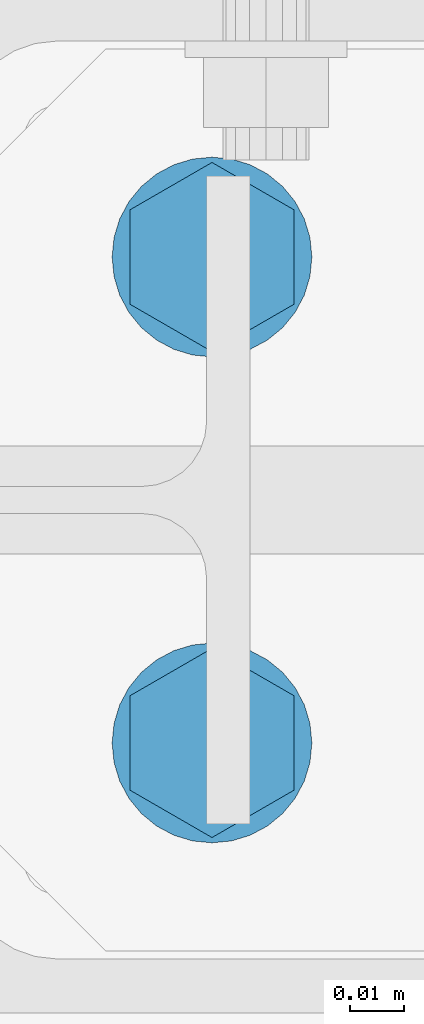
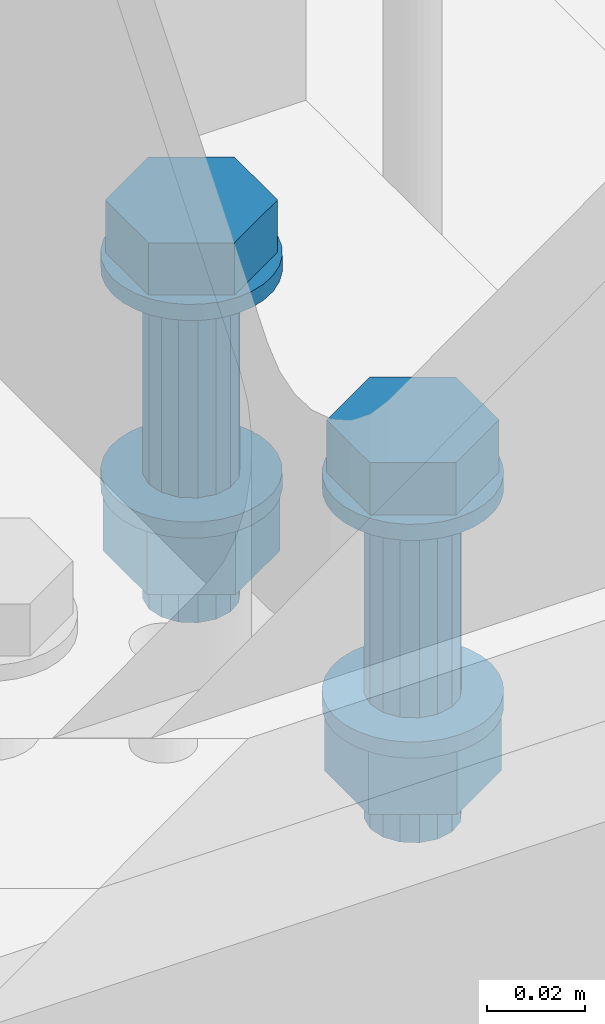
# One storey, part 269 of 825: 1 mechanical fastener.
"""IFC2X3 building model written with IfcOpenShell, lengths in millimetres."""

from ifc_helpers import new_model, entity, si_unit, converted_unit, origin_with_axes, place, context, project, spatial, faceted_brep, element, save


model = new_model("IFC2X3")

# Units and contexts
model_context = context("Model", 3, precision=1e-09, world=origin_with_axes())
ifc_project = project(units=[si_unit("LENGTHUNIT", "METRE", prefix="MILLI"), si_unit("AREAUNIT", "SQUARE_METRE"), si_unit("VOLUMEUNIT", "CUBIC_METRE"), converted_unit("PLANEANGLEUNIT", "DEGREE", entity("IfcPlaneAngleMeasure", 0.01745329), si_unit("PLANEANGLEUNIT", "RADIAN"), dimensions=[0, 0, 0, 0, 0, 0, 0])], contexts=[model_context])

# Site, building, storey
site_placement = place(None, origin_with_axes())
site = spatial("IfcSite", under=ifc_project, at=site_placement, Name="Cnopf'sche Kinderklinik", CompositionType="ELEMENT")
building_placement = place(site_placement, origin_with_axes())
building = spatial("IfcBuilding", under=site, at=building_placement, Name="Struktur 1", CompositionType="ELEMENT")
storey_placement = place(building_placement, origin_with_axes())
storey = spatial("IfcBuildingStorey", under=building, at=storey_placement, Name="Default Storey", CompositionType="ELEMENT", Elevation=0.0)

# Mechanical fastener
mechanical_fastener_placement = place(None, origin_with_axes())
element("IfcMechanicalFastener", 1, at=mechanical_fastener_placement, inside=storey, ObjectType="Bolt#2", NominalDiameter=20.0, NominalLength=85.0, context=model_context, shape_type="Brep", body=[
    faceted_brep([(4925.213402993, 4411.736971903, 12925.0), (4925.213402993, 4411.736971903, 12929.0), (4924.857930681, 4408.127800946, 12929.0), (4924.857930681, 4408.127800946, 12925.0), (4923.805174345, 4404.657328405, 12929.0), (4923.805174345, 4404.657328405, 12925.0), (4922.095590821, 4401.458922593, 12929.0), (4922.095590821, 4401.458922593, 12925.0), (4919.794878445, 4398.655496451, 12929.0), (4919.794878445, 4398.655496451, 12925.0), (4916.991452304, 4396.354784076, 12929.0), (4916.991452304, 4396.354784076, 12925.0), (4913.793046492, 4394.645200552, 12929.0), (4913.793046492, 4394.645200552, 12925.0), (4910.32257395, 4393.592444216, 12929.0), (4910.32257395, 4393.592444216, 12925.0), (4906.713402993, 4393.236971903, 12929.0), (4906.713402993, 4393.236971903, 12925.0), (4903.104232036, 4393.592444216, 12929.0), (4903.104232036, 4393.592444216, 12925.0), (4899.633759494, 4394.645200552, 12929.0), (4899.633759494, 4394.645200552, 12925.0), (4896.435353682, 4396.354784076, 12929.0), (4896.435353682, 4396.354784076, 12925.0), (4893.631927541, 4398.655496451, 12929.0), (4893.631927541, 4398.655496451, 12925.0), (4891.331215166, 4401.458922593, 12929.0), (4891.331215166, 4401.458922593, 12925.0), (4889.621631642, 4404.657328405, 12929.0), (4889.621631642, 4404.657328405, 12925.0), (4888.568875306, 4408.127800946, 12929.0), (4888.568875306, 4408.127800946, 12925.0), (4888.213402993, 4411.736971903, 12929.0), (4888.213402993, 4411.736971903, 12925.0), (4888.568875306, 4415.346142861, 12929.0), (4888.568875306, 4415.346142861, 12925.0), (4889.621631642, 4418.816615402, 12929.0), (4889.621631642, 4418.816615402, 12925.0), (4891.331215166, 4422.015021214, 12929.0), (4891.331215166, 4422.015021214, 12925.0), (4893.631927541, 4424.818447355, 12929.0), (4893.631927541, 4424.818447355, 12925.0), (4896.435353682, 4427.119159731, 12929.0), (4896.435353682, 4427.119159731, 12925.0), (4899.633759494, 4428.828743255, 12929.0), (4899.633759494, 4428.828743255, 12925.0), (4903.104232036, 4429.881499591, 12929.0), (4903.104232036, 4429.881499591, 12925.0), (4906.713402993, 4430.236971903, 12929.0), (4906.713402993, 4430.236971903, 12925.0), (4910.32257395, 4429.881499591, 12929.0), (4910.32257395, 4429.881499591, 12925.0), (4913.793046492, 4428.828743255, 12929.0), (4913.793046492, 4428.828743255, 12925.0), (4916.991452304, 4427.119159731, 12929.0), (4916.991452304, 4427.119159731, 12925.0), (4919.794878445, 4424.818447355, 12929.0), (4919.794878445, 4424.818447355, 12925.0), (4922.095590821, 4422.015021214, 12929.0), (4922.095590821, 4422.015021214, 12925.0), (4923.805174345, 4418.816615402, 12929.0), (4923.805174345, 4418.816615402, 12925.0), (4924.857930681, 4415.346142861, 12929.0), (4924.857930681, 4415.346142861, 12925.0)], [[[0, 1, 2, 3]], [[3, 2, 4, 5]], [[5, 4, 6, 7]], [[7, 6, 8, 9]], [[9, 8, 10, 11]], [[11, 10, 12, 13]], [[13, 12, 14, 15]], [[15, 14, 16, 17]], [[17, 16, 18, 19]], [[19, 18, 20, 21]], [[21, 20, 22, 23]], [[23, 22, 24, 25]], [[25, 24, 26, 27]], [[27, 26, 28, 29]], [[29, 28, 30, 31]], [[31, 30, 32, 33]], [[33, 32, 34, 35]], [[35, 34, 36, 37]], [[37, 36, 38, 39]], [[39, 38, 40, 41]], [[41, 40, 42, 43]], [[43, 42, 44, 45]], [[45, 44, 46, 47]], [[47, 46, 48, 49]], [[49, 48, 50, 51]], [[51, 50, 52, 53]], [[53, 52, 54, 55]], [[55, 54, 56, 57]], [[57, 56, 58, 59]], [[59, 58, 60, 61]], [[61, 60, 62, 63]], [[63, 62, 1, 0]], [[2, 1, 62, 60, 58, 56, 54, 52, 50, 48, 46, 44, 42, 40, 38, 36, 34, 32, 30, 28, 26, 24, 22, 20, 18, 16, 14, 12, 10, 8, 6, 4]], [[63, 0, 3, 5, 7, 9, 11, 13, 15, 17, 19, 21, 23, 25, 27, 29, 31, 33, 35, 37, 39, 41, 43, 45, 47, 49, 51, 53, 55, 57, 59, 61]]]),
    faceted_brep([(4925.213402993, 4321.736971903, 12925.0), (4925.213402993, 4321.736971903, 12929.0), (4924.857930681, 4318.127800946, 12929.0), (4924.857930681, 4318.127800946, 12925.0), (4923.805174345, 4314.657328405, 12929.0), (4923.805174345, 4314.657328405, 12925.0), (4922.095590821, 4311.458922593, 12929.0), (4922.095590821, 4311.458922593, 12925.0), (4919.794878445, 4308.655496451, 12929.0), (4919.794878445, 4308.655496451, 12925.0), (4916.991452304, 4306.354784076, 12929.0), (4916.991452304, 4306.354784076, 12925.0), (4913.793046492, 4304.645200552, 12929.0), (4913.793046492, 4304.645200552, 12925.0), (4910.32257395, 4303.592444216, 12929.0), (4910.32257395, 4303.592444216, 12925.0), (4906.713402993, 4303.236971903, 12929.0), (4906.713402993, 4303.236971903, 12925.0), (4903.104232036, 4303.592444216, 12929.0), (4903.104232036, 4303.592444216, 12925.0), (4899.633759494, 4304.645200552, 12929.0), (4899.633759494, 4304.645200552, 12925.0), (4896.435353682, 4306.354784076, 12929.0), (4896.435353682, 4306.354784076, 12925.0), (4893.631927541, 4308.655496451, 12929.0), (4893.631927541, 4308.655496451, 12925.0), (4891.331215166, 4311.458922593, 12929.0), (4891.331215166, 4311.458922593, 12925.0), (4889.621631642, 4314.657328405, 12929.0), (4889.621631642, 4314.657328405, 12925.0), (4888.568875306, 4318.127800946, 12929.0), (4888.568875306, 4318.127800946, 12925.0), (4888.213402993, 4321.736971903, 12929.0), (4888.213402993, 4321.736971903, 12925.0), (4888.568875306, 4325.346142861, 12929.0), (4888.568875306, 4325.346142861, 12925.0), (4889.621631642, 4328.816615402, 12929.0), (4889.621631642, 4328.816615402, 12925.0), (4891.331215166, 4332.015021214, 12929.0), (4891.331215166, 4332.015021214, 12925.0), (4893.631927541, 4334.818447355, 12929.0), (4893.631927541, 4334.818447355, 12925.0), (4896.435353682, 4337.119159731, 12929.0), (4896.435353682, 4337.119159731, 12925.0), (4899.633759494, 4338.828743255, 12929.0), (4899.633759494, 4338.828743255, 12925.0), (4903.104232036, 4339.881499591, 12929.0), (4903.104232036, 4339.881499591, 12925.0), (4906.713402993, 4340.236971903, 12929.0), (4906.713402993, 4340.236971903, 12925.0), (4910.32257395, 4339.881499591, 12929.0), (4910.32257395, 4339.881499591, 12925.0), (4913.793046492, 4338.828743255, 12929.0), (4913.793046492, 4338.828743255, 12925.0), (4916.991452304, 4337.119159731, 12929.0), (4916.991452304, 4337.119159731, 12925.0), (4919.794878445, 4334.818447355, 12929.0), (4919.794878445, 4334.818447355, 12925.0), (4922.095590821, 4332.015021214, 12929.0), (4922.095590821, 4332.015021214, 12925.0), (4923.805174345, 4328.816615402, 12929.0), (4923.805174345, 4328.816615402, 12925.0), (4924.857930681, 4325.346142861, 12929.0), (4924.857930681, 4325.346142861, 12925.0)], [[[0, 1, 2, 3]], [[3, 2, 4, 5]], [[5, 4, 6, 7]], [[7, 6, 8, 9]], [[9, 8, 10, 11]], [[11, 10, 12, 13]], [[13, 12, 14, 15]], [[15, 14, 16, 17]], [[17, 16, 18, 19]], [[19, 18, 20, 21]], [[21, 20, 22, 23]], [[23, 22, 24, 25]], [[25, 24, 26, 27]], [[27, 26, 28, 29]], [[29, 28, 30, 31]], [[31, 30, 32, 33]], [[33, 32, 34, 35]], [[35, 34, 36, 37]], [[37, 36, 38, 39]], [[39, 38, 40, 41]], [[41, 40, 42, 43]], [[43, 42, 44, 45]], [[45, 44, 46, 47]], [[47, 46, 48, 49]], [[49, 48, 50, 51]], [[51, 50, 52, 53]], [[53, 52, 54, 55]], [[55, 54, 56, 57]], [[57, 56, 58, 59]], [[59, 58, 60, 61]], [[61, 60, 62, 63]], [[63, 62, 1, 0]], [[2, 1, 62, 60, 58, 56, 54, 52, 50, 48, 46, 44, 42, 40, 38, 36, 34, 32, 30, 28, 26, 24, 22, 20, 18, 16, 14, 12, 10, 8, 6, 4]], [[63, 0, 3, 5, 7, 9, 11, 13, 15, 17, 19, 21, 23, 25, 27, 29, 31, 33, 35, 37, 39, 41, 43, 45, 47, 49, 51, 53, 55, 57, 59, 61]]]),
    faceted_brep([(4891.544968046, 4402.979471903, 12942.0), (4891.544968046, 4402.979471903, 12929.0), (4906.713402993, 4394.221971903, 12929.0), (4906.713402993, 4394.221971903, 12942.0), (4921.88183794, 4402.979471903, 12929.0), (4921.88183794, 4402.979471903, 12942.0), (4921.88183794, 4420.494471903, 12929.0), (4921.88183794, 4420.494471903, 12942.0), (4906.713402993, 4429.251971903, 12929.0), (4906.713402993, 4429.251971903, 12942.0), (4891.544968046, 4420.494471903, 12929.0), (4891.544968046, 4420.494471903, 12942.0)], [[[0, 1, 2, 3]], [[3, 2, 4, 5]], [[5, 4, 6, 7]], [[7, 6, 8, 9]], [[9, 8, 10, 11]], [[11, 10, 1, 0]], [[3, 5, 7, 9, 11, 0]], [[2, 1, 10, 8, 6, 4]]]),
    faceted_brep([(4891.544968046, 4312.979471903, 12942.0), (4891.544968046, 4312.979471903, 12929.0), (4906.713402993, 4304.221971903, 12929.0), (4906.713402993, 4304.221971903, 12942.0), (4921.88183794, 4312.979471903, 12929.0), (4921.88183794, 4312.979471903, 12942.0), (4921.88183794, 4330.494471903, 12929.0), (4921.88183794, 4330.494471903, 12942.0), (4906.713402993, 4339.251971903, 12929.0), (4906.713402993, 4339.251971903, 12942.0), (4891.544968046, 4330.494471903, 12929.0), (4891.544968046, 4330.494471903, 12942.0)], [[[0, 1, 2, 3]], [[3, 2, 4, 5]], [[5, 4, 6, 7]], [[7, 6, 8, 9]], [[9, 8, 10, 11]], [[11, 10, 1, 0]], [[3, 5, 7, 9, 11, 0]], [[2, 1, 10, 8, 6, 4]]]),
    faceted_brep([(4916.713402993, 4411.736971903, 12875.0), (4916.713402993, 4411.736971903, 12925.0), (4915.952198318, 4407.91013758, 12925.0), (4915.952198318, 4407.91013758, 12875.0), (4913.784470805, 4404.665904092, 12925.0), (4913.784470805, 4404.665904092, 12875.0), (4910.540237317, 4402.498176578, 12925.0), (4910.540237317, 4402.498176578, 12875.0), (4906.713402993, 4401.736971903, 12925.0), (4906.713402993, 4401.736971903, 12875.0), (4902.88656867, 4402.498176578, 12925.0), (4902.88656867, 4402.498176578, 12875.0), (4899.642335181, 4404.665904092, 12925.0), (4899.642335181, 4404.665904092, 12875.0), (4897.474607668, 4407.91013758, 12925.0), (4897.474607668, 4407.91013758, 12875.0), (4896.713402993, 4411.736971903, 12925.0), (4896.713402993, 4411.736971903, 12875.0), (4897.474607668, 4415.563806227, 12925.0), (4897.474607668, 4415.563806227, 12875.0), (4899.642335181, 4418.808039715, 12925.0), (4899.642335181, 4418.808039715, 12875.0), (4902.88656867, 4420.975767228, 12925.0), (4902.88656867, 4420.975767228, 12875.0), (4906.713402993, 4421.736971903, 12925.0), (4906.713402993, 4421.736971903, 12875.0), (4910.540237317, 4420.975767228, 12925.0), (4910.540237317, 4420.975767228, 12875.0), (4913.784470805, 4418.808039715, 12925.0), (4913.784470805, 4418.808039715, 12875.0), (4915.952198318, 4415.563806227, 12925.0), (4915.952198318, 4415.563806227, 12875.0)], [[[0, 1, 2, 3]], [[3, 2, 4, 5]], [[5, 4, 6, 7]], [[7, 6, 8, 9]], [[9, 8, 10, 11]], [[11, 10, 12, 13]], [[13, 12, 14, 15]], [[15, 14, 16, 17]], [[17, 16, 18, 19]], [[19, 18, 20, 21]], [[21, 20, 22, 23]], [[23, 22, 24, 25]], [[25, 24, 26, 27]], [[27, 26, 28, 29]], [[29, 28, 30, 31]], [[31, 30, 1, 0]], [[2, 1, 30, 28, 26, 24, 22, 20, 18, 16, 14, 12, 10, 8, 6, 4]], [[31, 0, 3, 5, 7, 9, 11, 13, 15, 17, 19, 21, 23, 25, 27, 29]]]),
    faceted_brep([(4916.713402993, 4321.736971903, 12875.0), (4916.713402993, 4321.736971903, 12925.0), (4915.952198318, 4317.91013758, 12925.0), (4915.952198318, 4317.91013758, 12875.0), (4913.784470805, 4314.665904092, 12925.0), (4913.784470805, 4314.665904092, 12875.0), (4910.540237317, 4312.498176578, 12925.0), (4910.540237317, 4312.498176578, 12875.0), (4906.713402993, 4311.736971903, 12925.0), (4906.713402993, 4311.736971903, 12875.0), (4902.88656867, 4312.498176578, 12925.0), (4902.88656867, 4312.498176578, 12875.0), (4899.642335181, 4314.665904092, 12925.0), (4899.642335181, 4314.665904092, 12875.0), (4897.474607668, 4317.91013758, 12925.0), (4897.474607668, 4317.91013758, 12875.0), (4896.713402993, 4321.736971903, 12925.0), (4896.713402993, 4321.736971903, 12875.0), (4897.474607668, 4325.563806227, 12925.0), (4897.474607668, 4325.563806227, 12875.0), (4899.642335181, 4328.808039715, 12925.0), (4899.642335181, 4328.808039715, 12875.0), (4902.88656867, 4330.975767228, 12925.0), (4902.88656867, 4330.975767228, 12875.0), (4906.713402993, 4331.736971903, 12925.0), (4906.713402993, 4331.736971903, 12875.0), (4910.540237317, 4330.975767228, 12925.0), (4910.540237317, 4330.975767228, 12875.0), (4913.784470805, 4328.808039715, 12925.0), (4913.784470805, 4328.808039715, 12875.0), (4915.952198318, 4325.563806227, 12925.0), (4915.952198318, 4325.563806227, 12875.0)], [[[0, 1, 2, 3]], [[3, 2, 4, 5]], [[5, 4, 6, 7]], [[7, 6, 8, 9]], [[9, 8, 10, 11]], [[11, 10, 12, 13]], [[13, 12, 14, 15]], [[15, 14, 16, 17]], [[17, 16, 18, 19]], [[19, 18, 20, 21]], [[21, 20, 22, 23]], [[23, 22, 24, 25]], [[25, 24, 26, 27]], [[27, 26, 28, 29]], [[29, 28, 30, 31]], [[31, 30, 1, 0]], [[2, 1, 30, 28, 26, 24, 22, 20, 18, 16, 14, 12, 10, 8, 6, 4]], [[31, 0, 3, 5, 7, 9, 11, 13, 15, 17, 19, 21, 23, 25, 27, 29]]]),
    faceted_brep([(4925.213402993, 4411.736971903, 12871.0), (4925.213402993, 4411.736971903, 12875.0), (4924.857930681, 4408.127800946, 12875.0), (4924.857930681, 4408.127800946, 12871.0), (4923.805174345, 4404.657328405, 12875.0), (4923.805174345, 4404.657328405, 12871.0), (4922.095590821, 4401.458922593, 12875.0), (4922.095590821, 4401.458922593, 12871.0), (4919.794878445, 4398.655496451, 12875.0), (4919.794878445, 4398.655496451, 12871.0), (4916.991452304, 4396.354784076, 12875.0), (4916.991452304, 4396.354784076, 12871.0), (4913.793046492, 4394.645200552, 12875.0), (4913.793046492, 4394.645200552, 12871.0), (4910.32257395, 4393.592444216, 12875.0), (4910.32257395, 4393.592444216, 12871.0), (4906.713402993, 4393.236971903, 12875.0), (4906.713402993, 4393.236971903, 12871.0), (4903.104232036, 4393.592444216, 12875.0), (4903.104232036, 4393.592444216, 12871.0), (4899.633759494, 4394.645200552, 12875.0), (4899.633759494, 4394.645200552, 12871.0), (4896.435353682, 4396.354784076, 12875.0), (4896.435353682, 4396.354784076, 12871.0), (4893.631927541, 4398.655496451, 12875.0), (4893.631927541, 4398.655496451, 12871.0), (4891.331215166, 4401.458922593, 12875.0), (4891.331215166, 4401.458922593, 12871.0), (4889.621631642, 4404.657328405, 12875.0), (4889.621631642, 4404.657328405, 12871.0), (4888.568875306, 4408.127800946, 12875.0), (4888.568875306, 4408.127800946, 12871.0), (4888.213402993, 4411.736971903, 12875.0), (4888.213402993, 4411.736971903, 12871.0), (4888.568875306, 4415.346142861, 12875.0), (4888.568875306, 4415.346142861, 12871.0), (4889.621631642, 4418.816615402, 12875.0), (4889.621631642, 4418.816615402, 12871.0), (4891.331215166, 4422.015021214, 12875.0), (4891.331215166, 4422.015021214, 12871.0), (4893.631927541, 4424.818447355, 12875.0), (4893.631927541, 4424.818447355, 12871.0), (4896.435353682, 4427.119159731, 12875.0), (4896.435353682, 4427.119159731, 12871.0), (4899.633759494, 4428.828743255, 12875.0), (4899.633759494, 4428.828743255, 12871.0), (4903.104232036, 4429.881499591, 12875.0), (4903.104232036, 4429.881499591, 12871.0), (4906.713402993, 4430.236971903, 12875.0), (4906.713402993, 4430.236971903, 12871.0), (4910.32257395, 4429.881499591, 12875.0), (4910.32257395, 4429.881499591, 12871.0), (4913.793046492, 4428.828743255, 12875.0), (4913.793046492, 4428.828743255, 12871.0), (4916.991452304, 4427.119159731, 12875.0), (4916.991452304, 4427.119159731, 12871.0), (4919.794878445, 4424.818447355, 12875.0), (4919.794878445, 4424.818447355, 12871.0), (4922.095590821, 4422.015021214, 12875.0), (4922.095590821, 4422.015021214, 12871.0), (4923.805174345, 4418.816615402, 12875.0), (4923.805174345, 4418.816615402, 12871.0), (4924.857930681, 4415.346142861, 12875.0), (4924.857930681, 4415.346142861, 12871.0)], [[[0, 1, 2, 3]], [[3, 2, 4, 5]], [[5, 4, 6, 7]], [[7, 6, 8, 9]], [[9, 8, 10, 11]], [[11, 10, 12, 13]], [[13, 12, 14, 15]], [[15, 14, 16, 17]], [[17, 16, 18, 19]], [[19, 18, 20, 21]], [[21, 20, 22, 23]], [[23, 22, 24, 25]], [[25, 24, 26, 27]], [[27, 26, 28, 29]], [[29, 28, 30, 31]], [[31, 30, 32, 33]], [[33, 32, 34, 35]], [[35, 34, 36, 37]], [[37, 36, 38, 39]], [[39, 38, 40, 41]], [[41, 40, 42, 43]], [[43, 42, 44, 45]], [[45, 44, 46, 47]], [[47, 46, 48, 49]], [[49, 48, 50, 51]], [[51, 50, 52, 53]], [[53, 52, 54, 55]], [[55, 54, 56, 57]], [[57, 56, 58, 59]], [[59, 58, 60, 61]], [[61, 60, 62, 63]], [[63, 62, 1, 0]], [[2, 1, 62, 60, 58, 56, 54, 52, 50, 48, 46, 44, 42, 40, 38, 36, 34, 32, 30, 28, 26, 24, 22, 20, 18, 16, 14, 12, 10, 8, 6, 4]], [[63, 0, 3, 5, 7, 9, 11, 13, 15, 17, 19, 21, 23, 25, 27, 29, 31, 33, 35, 37, 39, 41, 43, 45, 47, 49, 51, 53, 55, 57, 59, 61]]]),
    faceted_brep([(4925.213402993, 4321.736971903, 12871.0), (4925.213402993, 4321.736971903, 12875.0), (4924.857930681, 4318.127800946, 12875.0), (4924.857930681, 4318.127800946, 12871.0), (4923.805174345, 4314.657328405, 12875.0), (4923.805174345, 4314.657328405, 12871.0), (4922.095590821, 4311.458922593, 12875.0), (4922.095590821, 4311.458922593, 12871.0), (4919.794878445, 4308.655496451, 12875.0), (4919.794878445, 4308.655496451, 12871.0), (4916.991452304, 4306.354784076, 12875.0), (4916.991452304, 4306.354784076, 12871.0), (4913.793046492, 4304.645200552, 12875.0), (4913.793046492, 4304.645200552, 12871.0), (4910.32257395, 4303.592444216, 12875.0), (4910.32257395, 4303.592444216, 12871.0), (4906.713402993, 4303.236971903, 12875.0), (4906.713402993, 4303.236971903, 12871.0), (4903.104232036, 4303.592444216, 12875.0), (4903.104232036, 4303.592444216, 12871.0), (4899.633759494, 4304.645200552, 12875.0), (4899.633759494, 4304.645200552, 12871.0), (4896.435353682, 4306.354784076, 12875.0), (4896.435353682, 4306.354784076, 12871.0), (4893.631927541, 4308.655496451, 12875.0), (4893.631927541, 4308.655496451, 12871.0), (4891.331215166, 4311.458922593, 12875.0), (4891.331215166, 4311.458922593, 12871.0), (4889.621631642, 4314.657328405, 12875.0), (4889.621631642, 4314.657328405, 12871.0), (4888.568875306, 4318.127800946, 12875.0), (4888.568875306, 4318.127800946, 12871.0), (4888.213402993, 4321.736971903, 12875.0), (4888.213402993, 4321.736971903, 12871.0), (4888.568875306, 4325.346142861, 12875.0), (4888.568875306, 4325.346142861, 12871.0), (4889.621631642, 4328.816615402, 12875.0), (4889.621631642, 4328.816615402, 12871.0), (4891.331215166, 4332.015021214, 12875.0), (4891.331215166, 4332.015021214, 12871.0), (4893.631927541, 4334.818447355, 12875.0), (4893.631927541, 4334.818447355, 12871.0), (4896.435353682, 4337.119159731, 12875.0), (4896.435353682, 4337.119159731, 12871.0), (4899.633759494, 4338.828743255, 12875.0), (4899.633759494, 4338.828743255, 12871.0), (4903.104232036, 4339.881499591, 12875.0), (4903.104232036, 4339.881499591, 12871.0), (4906.713402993, 4340.236971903, 12875.0), (4906.713402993, 4340.236971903, 12871.0), (4910.32257395, 4339.881499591, 12875.0), (4910.32257395, 4339.881499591, 12871.0), (4913.793046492, 4338.828743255, 12875.0), (4913.793046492, 4338.828743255, 12871.0), (4916.991452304, 4337.119159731, 12875.0), (4916.991452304, 4337.119159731, 12871.0), (4919.794878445, 4334.818447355, 12875.0), (4919.794878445, 4334.818447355, 12871.0), (4922.095590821, 4332.015021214, 12875.0), (4922.095590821, 4332.015021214, 12871.0), (4923.805174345, 4328.816615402, 12875.0), (4923.805174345, 4328.816615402, 12871.0), (4924.857930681, 4325.346142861, 12875.0), (4924.857930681, 4325.346142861, 12871.0)], [[[0, 1, 2, 3]], [[3, 2, 4, 5]], [[5, 4, 6, 7]], [[7, 6, 8, 9]], [[9, 8, 10, 11]], [[11, 10, 12, 13]], [[13, 12, 14, 15]], [[15, 14, 16, 17]], [[17, 16, 18, 19]], [[19, 18, 20, 21]], [[21, 20, 22, 23]], [[23, 22, 24, 25]], [[25, 24, 26, 27]], [[27, 26, 28, 29]], [[29, 28, 30, 31]], [[31, 30, 32, 33]], [[33, 32, 34, 35]], [[35, 34, 36, 37]], [[37, 36, 38, 39]], [[39, 38, 40, 41]], [[41, 40, 42, 43]], [[43, 42, 44, 45]], [[45, 44, 46, 47]], [[47, 46, 48, 49]], [[49, 48, 50, 51]], [[51, 50, 52, 53]], [[53, 52, 54, 55]], [[55, 54, 56, 57]], [[57, 56, 58, 59]], [[59, 58, 60, 61]], [[61, 60, 62, 63]], [[63, 62, 1, 0]], [[2, 1, 62, 60, 58, 56, 54, 52, 50, 48, 46, 44, 42, 40, 38, 36, 34, 32, 30, 28, 26, 24, 22, 20, 18, 16, 14, 12, 10, 8, 6, 4]], [[63, 0, 3, 5, 7, 9, 11, 13, 15, 17, 19, 21, 23, 25, 27, 29, 31, 33, 35, 37, 39, 41, 43, 45, 47, 49, 51, 53, 55, 57, 59, 61]]]),
    faceted_brep([(4891.124945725, 4402.736971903, 12871.0), (4891.124945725, 4402.736971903, 12855.0), (4906.713402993, 4393.736971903, 12855.0), (4906.713402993, 4393.736971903, 12871.0), (4922.301860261, 4402.736971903, 12855.0), (4922.301860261, 4402.736971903, 12871.0), (4922.301860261, 4420.736971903, 12855.0), (4922.301860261, 4420.736971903, 12871.0), (4906.713402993, 4429.736971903, 12855.0), (4906.713402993, 4429.736971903, 12871.0), (4891.124945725, 4420.736971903, 12855.0), (4891.124945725, 4420.736971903, 12871.0)], [[[0, 1, 2, 3]], [[3, 2, 4, 5]], [[5, 4, 6, 7]], [[7, 6, 8, 9]], [[9, 8, 10, 11]], [[11, 10, 1, 0]], [[3, 5, 7, 9, 11, 0]], [[2, 1, 10, 8, 6, 4]]]),
    faceted_brep([(4891.124945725, 4312.736971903, 12871.0), (4891.124945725, 4312.736971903, 12855.0), (4906.713402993, 4303.736971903, 12855.0), (4906.713402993, 4303.736971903, 12871.0), (4922.301860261, 4312.736971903, 12855.0), (4922.301860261, 4312.736971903, 12871.0), (4922.301860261, 4330.736971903, 12855.0), (4922.301860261, 4330.736971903, 12871.0), (4906.713402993, 4339.736971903, 12855.0), (4906.713402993, 4339.736971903, 12871.0), (4891.124945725, 4330.736971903, 12855.0), (4891.124945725, 4330.736971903, 12871.0)], [[[0, 1, 2, 3]], [[3, 2, 4, 5]], [[5, 4, 6, 7]], [[7, 6, 8, 9]], [[9, 8, 10, 11]], [[11, 10, 1, 0]], [[3, 5, 7, 9, 11, 0]], [[2, 1, 10, 8, 6, 4]]]),
    faceted_brep([(4916.713402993, 4411.736971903, 12844.0), (4916.713402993, 4411.736971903, 12855.0), (4915.952198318, 4407.91013758, 12855.0), (4915.952198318, 4407.91013758, 12844.0), (4913.784470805, 4404.665904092, 12855.0), (4913.784470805, 4404.665904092, 12844.0), (4910.540237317, 4402.498176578, 12855.0), (4910.540237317, 4402.498176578, 12844.0), (4906.713402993, 4401.736971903, 12855.0), (4906.713402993, 4401.736971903, 12844.0), (4902.88656867, 4402.498176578, 12855.0), (4902.88656867, 4402.498176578, 12844.0), (4899.642335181, 4404.665904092, 12855.0), (4899.642335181, 4404.665904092, 12844.0), (4897.474607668, 4407.91013758, 12855.0), (4897.474607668, 4407.91013758, 12844.0), (4896.713402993, 4411.736971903, 12855.0), (4896.713402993, 4411.736971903, 12844.0), (4897.474607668, 4415.563806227, 12855.0), (4897.474607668, 4415.563806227, 12844.0), (4899.642335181, 4418.808039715, 12855.0), (4899.642335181, 4418.808039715, 12844.0), (4902.88656867, 4420.975767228, 12855.0), (4902.88656867, 4420.975767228, 12844.0), (4906.713402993, 4421.736971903, 12855.0), (4906.713402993, 4421.736971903, 12844.0), (4910.540237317, 4420.975767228, 12855.0), (4910.540237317, 4420.975767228, 12844.0), (4913.784470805, 4418.808039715, 12855.0), (4913.784470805, 4418.808039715, 12844.0), (4915.952198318, 4415.563806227, 12855.0), (4915.952198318, 4415.563806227, 12844.0)], [[[0, 1, 2, 3]], [[3, 2, 4, 5]], [[5, 4, 6, 7]], [[7, 6, 8, 9]], [[9, 8, 10, 11]], [[11, 10, 12, 13]], [[13, 12, 14, 15]], [[15, 14, 16, 17]], [[17, 16, 18, 19]], [[19, 18, 20, 21]], [[21, 20, 22, 23]], [[23, 22, 24, 25]], [[25, 24, 26, 27]], [[27, 26, 28, 29]], [[29, 28, 30, 31]], [[31, 30, 1, 0]], [[2, 1, 30, 28, 26, 24, 22, 20, 18, 16, 14, 12, 10, 8, 6, 4]], [[31, 0, 3, 5, 7, 9, 11, 13, 15, 17, 19, 21, 23, 25, 27, 29]]]),
    faceted_brep([(4916.713402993, 4321.736971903, 12844.0), (4916.713402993, 4321.736971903, 12855.0), (4915.952198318, 4317.91013758, 12855.0), (4915.952198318, 4317.91013758, 12844.0), (4913.784470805, 4314.665904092, 12855.0), (4913.784470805, 4314.665904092, 12844.0), (4910.540237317, 4312.498176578, 12855.0), (4910.540237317, 4312.498176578, 12844.0), (4906.713402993, 4311.736971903, 12855.0), (4906.713402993, 4311.736971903, 12844.0), (4902.88656867, 4312.498176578, 12855.0), (4902.88656867, 4312.498176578, 12844.0), (4899.642335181, 4314.665904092, 12855.0), (4899.642335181, 4314.665904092, 12844.0), (4897.474607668, 4317.91013758, 12855.0), (4897.474607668, 4317.91013758, 12844.0), (4896.713402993, 4321.736971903, 12855.0), (4896.713402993, 4321.736971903, 12844.0), (4897.474607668, 4325.563806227, 12855.0), (4897.474607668, 4325.563806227, 12844.0), (4899.642335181, 4328.808039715, 12855.0), (4899.642335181, 4328.808039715, 12844.0), (4902.88656867, 4330.975767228, 12855.0), (4902.88656867, 4330.975767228, 12844.0), (4906.713402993, 4331.736971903, 12855.0), (4906.713402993, 4331.736971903, 12844.0), (4910.540237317, 4330.975767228, 12855.0), (4910.540237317, 4330.975767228, 12844.0), (4913.784470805, 4328.808039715, 12855.0), (4913.784470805, 4328.808039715, 12844.0), (4915.952198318, 4325.563806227, 12855.0), (4915.952198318, 4325.563806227, 12844.0)], [[[0, 1, 2, 3]], [[3, 2, 4, 5]], [[5, 4, 6, 7]], [[7, 6, 8, 9]], [[9, 8, 10, 11]], [[11, 10, 12, 13]], [[13, 12, 14, 15]], [[15, 14, 16, 17]], [[17, 16, 18, 19]], [[19, 18, 20, 21]], [[21, 20, 22, 23]], [[23, 22, 24, 25]], [[25, 24, 26, 27]], [[27, 26, 28, 29]], [[29, 28, 30, 31]], [[31, 30, 1, 0]], [[2, 1, 30, 28, 26, 24, 22, 20, 18, 16, 14, 12, 10, 8, 6, 4]], [[31, 0, 3, 5, 7, 9, 11, 13, 15, 17, 19, 21, 23, 25, 27, 29]]]),
])

save(model, "model.ifc")
